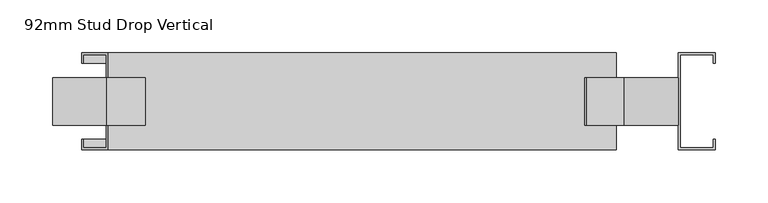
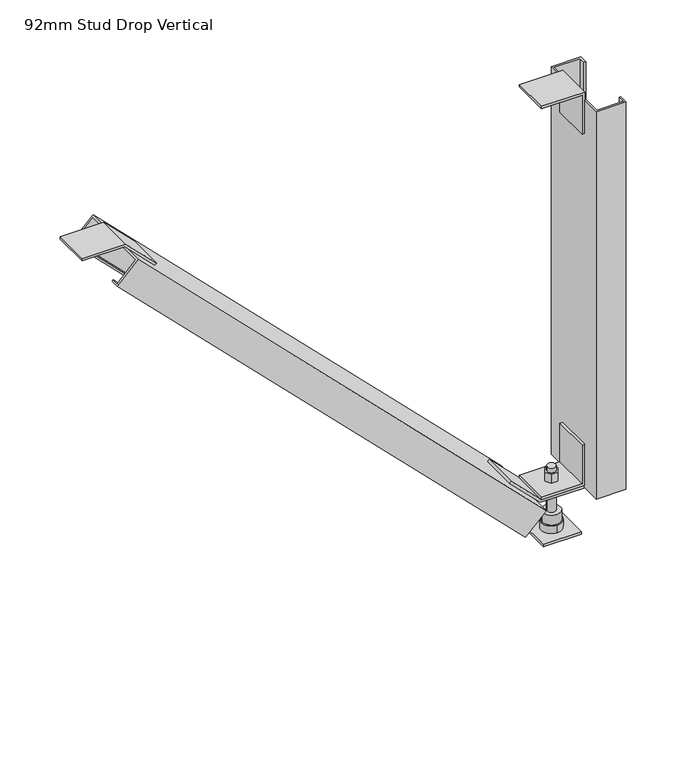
"""IFC4 building model written with IfcOpenShell, lengths in millimetres: beam geometry, Vertibrace Standard Brace : 92mm Stud Drop Vertical."""

from ifc_helpers import new_model, si_unit, frame, origin, origin_with_axes, place, context, project, spatial, polyline, circle_curve, outline, extrude, faceted_brep, source, transform, mapped, element, save
from ifc_brep_helpers import plane_surface, cylinder_surface, advanced_brep


def beam_92mm_stud_drop_vertical_5b7d6dc8(model_context):
    return source(origin(), model_context, "Body", "SolidModel", [
        extrude(outline(polyline([(547.0013294, 23.235654), (498.7734408, 23.235654), (498.7734408, 26.2343246), (550.0, 26.2343246), (550.0, -24.9922346), (547.0013294, -24.9922346), (547.0013294, 23.235654)])), frame((0.0, -22.5, 0.0), z_axis=(0.0, 1.0, 0.0), x_axis=(0.0, 0.0, 1.0)), (0.0, 0.0, 1.0), 45.0),
        extrude(outline(polyline([(547.0013294, -516.535654), (511.6569723, -481.1912969), (513.7773526, -479.0709166), (550.0, -515.293564), (550.0, -566.5201232), (547.0013294, -566.5201232), (547.0013294, -516.535654)])), frame((0.0, -22.5, 0.0), z_axis=(0.0, 1.0, 0.0), x_axis=(0.0, 0.0, 1.0)), (0.0, 0.0, 1.0), 45.0),
        extrude(outline(polyline([(62.6986706, 23.235654), (62.6986706, -24.9922346), (59.7, -24.9922346), (59.7, 26.2343246), (110.9265592, 26.2343246), (110.9265592, 23.235654), (62.6986706, 23.235654)])), frame((0.0, -22.5, 0.0), z_axis=(0.0, 1.0, 0.0), x_axis=(0.0, 0.0, 1.0)), (0.0, 0.0, 1.0), 45.0),
        extrude(outline(polyline([(59.6986706, -24.9922346), (95.0430277, -60.3365917), (92.9226474, -62.456972), (56.7, -26.2343246), (56.7, 24.9922346), (59.6986706, 24.9922346), (59.6986706, -24.9922346)])), frame((0.0, -22.5, 0.0), z_axis=(0.0, 1.0, 0.0), x_axis=(0.0, 0.0, 1.0)), (0.0, 0.0, 1.0), 45.0),
        extrude(outline(polyline([(22.5, 22.5), (22.5, -22.5), (-22.5, -22.5), (-22.5, 22.5), (22.5, 22.5)])), origin_with_axes(), (0.0, 0.0, 1.0), 3.0),
        advanced_brep(
        [(-5.0, 0.0, -10.0), (5.0, 0.0, -10.0), (-5.0, 0.0, 80.0), (5.0, 0.0, 80.0), (5.0, 0.0, 3.0), (-5.0, 0.0, 3.0), (-5.0, 0.0, 74.4), (5.0, 0.0, 74.4), (-5.0, 0.0, 25.0), (5.0, 0.0, 25.0), (5.0, 0.0, 50.0), (-5.0, 0.0, 50.0), (5.0, 0.0, 62.7), (-5.0, 0.0, 62.7), (-5.0, 0.0, 56.7), (5.0, 0.0, 56.7), (-10.5, 0.0, 25.0), (10.5, 0.0, 25.0), (-10.5, 0.0, 13.0), (10.5, 0.0, 13.0), (0.0, -12.0, 13.0), (0.0, 12.0, 13.0), (3.75, 6.4951905, 74.4), (-3.75, 6.4951905, 74.4), (-7.5, 0.0, 74.4), (-3.75, -6.4951905, 74.4), (3.75, -6.4951905, 74.4), (7.5, 0.0, 74.4), (3.75, 6.4951905, 62.7), (7.5, 0.0, 62.7), (3.75, -6.4951905, 62.7), (-3.75, -6.4951905, 62.7), (-7.5, 0.0, 62.7), (-3.75, 6.4951905, 62.7), (-10.9696551, 0.0, 56.7), (-5.4848276, -9.5, 56.7), (5.4848276, -9.5, 56.7), (10.9696551, 0.0, 56.7), (5.4848276, 9.5, 56.7), (-5.4848276, 9.5, 56.7), (-10.9696551, 0.0, 50.0), (-5.4848276, 9.5, 50.0), (5.4848276, 9.5, 50.0), (10.9696551, 0.0, 50.0), (5.4848276, -9.5, 50.0), (-5.4848276, -9.5, 50.0), (0.0, -12.0, 3.0), (0.0, 12.0, 3.0)],
        [
            (0, 1, circle_curve(frame((0.0, 0.0, -10.0), z_axis=(0.0, 0.0, -1.0), x_axis=(1.0, 0.0, 0.0)), 5.0)),
            (1, 0, circle_curve(frame((0.0, 0.0, -10.0), z_axis=(0.0, 0.0, -1.0), x_axis=(1.0, 0.0, 0.0)), 5.0)),
            (2, 3, circle_curve(frame((0.0, 0.0, 80.0), z_axis=(0.0, 0.0, 1.0), x_axis=(1.0, 0.0, 0.0)), 5.0)),
            (3, 2, circle_curve(frame((0.0, 0.0, 80.0), z_axis=(0.0, 0.0, 1.0), x_axis=(1.0, 0.0, 0.0)), 5.0)),
            (1, 4),
            (4, 5, circle_curve(frame((0.0, 0.0, 3.0), z_axis=(0.0, 0.0, -1.0), x_axis=(1.0, 0.0, 0.0)), 5.0)),
            (5, 0),
            (2, 6),
            (6, 7, circle_curve(frame((0.0, 0.0, 74.4), z_axis=(0.0, 0.0, 1.0), x_axis=(1.0, 0.0, 0.0)), 5.0)),
            (7, 3),
            (8, 9, circle_curve(frame((0.0, 0.0, 25.0), z_axis=(0.0, 0.0, 1.0), x_axis=(1.0, 0.0, 0.0)), 5.0)),
            (9, 10),
            (10, 11, circle_curve(frame((0.0, 0.0, 50.0), z_axis=(0.0, 0.0, -1.0), x_axis=(1.0, 0.0, 0.0)), 5.0)),
            (11, 8),
            (12, 13, circle_curve(frame((0.0, 0.0, 62.7), z_axis=(0.0, 0.0, -1.0), x_axis=(1.0, 0.0, 0.0)), 5.0)),
            (13, 14),
            (14, 15, circle_curve(frame((0.0, 0.0, 56.7), z_axis=(0.0, 0.0, 1.0), x_axis=(1.0, 0.0, 0.0)), 5.0)),
            (15, 12),
            (5, 4, circle_curve(frame((0.0, 0.0, 3.0), z_axis=(0.0, 0.0, -1.0), x_axis=(1.0, 0.0, 0.0)), 5.0)),
            (7, 6, circle_curve(frame((0.0, 0.0, 74.4), z_axis=(0.0, 0.0, 1.0), x_axis=(1.0, 0.0, 0.0)), 5.0)),
            (9, 8, circle_curve(frame((0.0, 0.0, 25.0), z_axis=(0.0, 0.0, 1.0), x_axis=(1.0, 0.0, 0.0)), 5.0)),
            (11, 10, circle_curve(frame((0.0, 0.0, 50.0), z_axis=(0.0, 0.0, -1.0), x_axis=(1.0, 0.0, 0.0)), 5.0)),
            (13, 12, circle_curve(frame((0.0, 0.0, 62.7), z_axis=(0.0, 0.0, -1.0), x_axis=(1.0, 0.0, 0.0)), 5.0)),
            (15, 14, circle_curve(frame((0.0, 0.0, 56.7), z_axis=(0.0, 0.0, 1.0), x_axis=(1.0, 0.0, 0.0)), 5.0)),
            (16, 17, circle_curve(frame((0.0, 0.0, 25.0), z_axis=(0.0, 0.0, 1.0), x_axis=(1.0, 0.0, 0.0)), 10.5)),
            (17, 16, circle_curve(frame((0.0, 0.0, 25.0), z_axis=(0.0, 0.0, 1.0), x_axis=(1.0, 0.0, 0.0)), 10.5)),
            (16, 18),
            (18, 19, circle_curve(frame((0.0, 0.0, 13.0), z_axis=(0.0, 0.0, 1.0), x_axis=(1.0, 0.0, 0.0)), 10.5)),
            (19, 17),
            (19, 18, circle_curve(frame((0.0, 0.0, 13.0), z_axis=(0.0, 0.0, 1.0), x_axis=(1.0, 0.0, 0.0)), 10.5)),
            (20, 21, circle_curve(frame((0.0, 0.0, 13.0), z_axis=(0.0, 0.0, 1.0), x_axis=(0.0, 1.0, 0.0)), 12.0)),
            (21, 20, circle_curve(frame((0.0, 0.0, 13.0), z_axis=(0.0, 0.0, 1.0), x_axis=(0.0, 1.0, 0.0)), 12.0)),
            (22, 23),
            (23, 24),
            (24, 25),
            (25, 26),
            (26, 27),
            (27, 22),
            (28, 29),
            (29, 30),
            (30, 31),
            (31, 32),
            (32, 33),
            (33, 28),
            (22, 28),
            (33, 23),
            (32, 24),
            (31, 25),
            (30, 26),
            (29, 27),
            (34, 35),
            (35, 36),
            (36, 37),
            (37, 38),
            (38, 39),
            (39, 34),
            (40, 41),
            (41, 42),
            (42, 43),
            (43, 44),
            (44, 45),
            (45, 40),
            (34, 40),
            (45, 35),
            (44, 36),
            (43, 37),
            (42, 38),
            (41, 39),
            (46, 47, circle_curve(frame((0.0, 0.0, 3.0), z_axis=(0.0, 0.0, -1.0), x_axis=(0.0, 1.0, 0.0)), 12.0)),
            (47, 46, circle_curve(frame((0.0, 0.0, 3.0), z_axis=(0.0, 0.0, -1.0), x_axis=(0.0, 1.0, 0.0)), 12.0)),
            (47, 21),
            (20, 46),
        ],
        [
            plane_surface(frame((5.0, 0.0, -10.0), z_axis=(0.0, 0.0, -1.0), x_axis=(0.0, -1.0, 0.0))),
            plane_surface(frame((5.0, 0.0, 80.0), z_axis=(0.0, 0.0, 1.0), x_axis=(0.0, 1.0, 0.0))),
            cylinder_surface(frame((0.0, 0.0, -10.0), z_axis=(0.0, 0.0, 1.0), x_axis=(1.0, 0.0, 0.0)), 5.0),
            plane_surface(frame((10.5, 0.0, 25.0), z_axis=(0.0, 0.0, 1.0), x_axis=(0.0, 1.0, 0.0))),
            cylinder_surface(frame((0.0, 0.0, 13.0), z_axis=(0.0, 0.0, 1.0), x_axis=(1.0, 0.0, 0.0)), 10.5),
            plane_surface(frame((0.0, 12.0, 13.0), z_axis=(0.0, 0.0, 1.0), x_axis=(-1.0, 0.0, 0.0))),
            plane_surface(frame((3.75, 6.4951905, 74.4), z_axis=(0.0, 0.0, 1.0), x_axis=(-1.0, 0.0, 0.0))),
            plane_surface(frame((3.75, 6.4951905, 62.7), z_axis=(0.0, 0.0, -1.0), x_axis=(1.0, 0.0, 0.0))),
            plane_surface(frame((3.75, 6.4951905, 74.4), z_axis=(0.0, 1.0, 0.0), x_axis=(0.0, 0.0, -1.0))),
            plane_surface(frame((-3.75, 6.4951905, 74.4), z_axis=(-0.866025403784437, 0.5000000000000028, 0.0), x_axis=(0.0, 0.0, -1.0))),
            plane_surface(frame((-7.5, 0.0, 74.4), z_axis=(-0.8660254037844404, -0.4999999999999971, 0.0), x_axis=(0.0, 0.0, -1.0))),
            plane_surface(frame((-3.75, -6.4951905, 74.4), z_axis=(0.0, -1.0, 0.0), x_axis=(0.0, 0.0, -1.0))),
            plane_surface(frame((3.75, -6.4951905, 74.4), z_axis=(0.8660254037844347, -0.500000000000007, 0.0), x_axis=(0.0, 0.0, -1.0))),
            plane_surface(frame((7.5, 0.0, 74.4), z_axis=(0.8660254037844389, 0.49999999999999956, 0.0), x_axis=(0.0, 0.0, -1.0))),
            plane_surface(frame((-10.9696551, 0.0, 56.7), z_axis=(0.0, 0.0, 1.0), x_axis=(0.49999999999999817, -0.8660254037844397, 0.0))),
            plane_surface(frame((-10.9696551, 0.0, 50.0), z_axis=(0.0, 0.0, -1.0), x_axis=(-0.49999999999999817, 0.8660254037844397, 0.0))),
            plane_surface(frame((-10.9696551, 0.0, 56.7), z_axis=(-0.8660254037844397, -0.49999999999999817, 0.0), x_axis=(0.0, 0.0, -1.0))),
            plane_surface(frame((-5.4848276, -9.5, 56.7), z_axis=(0.0, -1.0, 0.0), x_axis=(0.0, 0.0, -1.0))),
            plane_surface(frame((5.4848276, -9.5, 56.7), z_axis=(0.8660254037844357, -0.5000000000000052, 0.0), x_axis=(0.0, 0.0, -1.0))),
            plane_surface(frame((10.9696551, 0.0, 56.7), z_axis=(0.8660254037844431, 0.49999999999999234, 0.0), x_axis=(0.0, 0.0, -1.0))),
            plane_surface(frame((5.4848276, 9.5, 56.7), z_axis=(0.0, 1.0, 0.0), x_axis=(0.0, 0.0, -1.0))),
            plane_surface(frame((-5.4848276, 9.5, 56.7), z_axis=(-0.866025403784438, 0.5000000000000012, 0.0), x_axis=(0.0, 0.0, -1.0))),
            plane_surface(frame((0.0, 12.0, 3.0), z_axis=(0.0, 0.0, -1.0), x_axis=(1.0, 0.0, 0.0))),
            cylinder_surface(frame((0.0, 0.0, 3.0), z_axis=(0.0, 0.0, 1.0), x_axis=(0.0, 1.0, 0.0)), 12.0),
        ],
        [
            (0, [[1, 2]]),
            (1, [[3, 4]]),
            (2, [[-2, 5, 6, 7]]),
            (2, [[-3, 8, 9, 10]]),
            (2, [[11, 12, 13, 14]]),
            (2, [[15, 16, 17, 18]]),
            (2, [[-1, -7, 19, -5]]),
            (2, [[-4, -10, 20, -8]]),
            (2, [[21, -14, 22, -12]]),
            (2, [[23, -18, 24, -16]]),
            (3, [[25, 26], [-11, -21]]),
            (4, [[-25, 27, 28, 29]]),
            (4, [[-26, -29, 30, -27]]),
            (5, [[31, 32], [-28, -30]]),
            (6, [[33, 34, 35, 36, 37, 38], [-9, -20]]),
            (7, [[39, 40, 41, 42, 43, 44], [-15, -23]]),
            (8, [[-33, 45, -44, 46]]),
            (9, [[-34, -46, -43, 47]]),
            (10, [[-35, -47, -42, 48]]),
            (11, [[-36, -48, -41, 49]]),
            (12, [[-37, -49, -40, 50]]),
            (13, [[-38, -50, -39, -45]]),
            (14, [[51, 52, 53, 54, 55, 56], [-17, -24]]),
            (15, [[57, 58, 59, 60, 61, 62], [-13, -22]]),
            (16, [[-51, 63, -62, 64]]),
            (17, [[-52, -64, -61, 65]]),
            (18, [[-53, -65, -60, 66]]),
            (19, [[-54, -66, -59, 67]]),
            (20, [[-55, -67, -58, 68]]),
            (21, [[-56, -68, -57, -63]]),
            (22, [[69, 70], [-6, -19]]),
            (23, [[-70, 71, -31, 72]]),
            (23, [[-69, -72, -32, -71]]),
        ],
    ),
        extrude(outline(polyline([(26.2343246, 46.0), (61.2343246, 46.0), (61.2343246, 36.0), (59.2343246, 36.0), (59.2343246, 44.0), (28.2343246, 44.0), (28.2343246, -44.0), (59.2343246, -44.0), (59.2343246, -36.0), (61.2343246, -36.0), (61.2343246, -46.0), (26.2343246, -46.0), (26.2343246, 46.0)])), frame((0.0, 0.0, 56.7), z_axis=(0.0, 0.0, 1.0), x_axis=(1.0, 0.0, 0.0)), (0.0, 0.0, 1.0), 483.3),
        faceted_brep([(-32.5343246, -46.0, 63.0), (-57.283062, -46.0, 38.2512627), (-57.283062, -45.0, 38.2512627), (-43.5343246, -45.0, 52.0), (-43.5343246, -44.0, 52.0), (-33.9485382, -44.0, 61.5857864), (-33.9485382, 44.0, 61.5857864), (-43.5343246, 44.0, 52.0), (-43.5343246, 46.0, 52.0), (-32.5343246, 46.0, 63.0), (-514.4883773, -46.0, 544.9540527), (-514.4883773, 46.0, 544.9540527), (-539.2371147, 46.0, 520.2053154), (-539.2371147, 36.0, 520.2053154), (-537.8229011, 36.0, 521.6195289), (-537.8229011, 44.0, 521.6195289), (-515.9025909, 44.0, 543.5398392), (-515.9025909, -44.0, 543.5398392), (-537.8229011, -44.0, 521.6195289), (-537.8229011, -36.0, 521.6195289), (-539.2371147, -36.0, 520.2053154), (-539.2371147, -46.0, 520.2053154), (-71.0317993, -36.0, 52.0), (-71.0317993, -45.0, 52.0), (-71.0317993, 46.0, 52.0), (-68.2033722, 44.0, 52.0), (-68.2033722, 36.0, 52.0), (-71.0317993, 36.0, 52.0), (-68.2033722, -36.0, 52.0), (-68.2033722, -44.0, 52.0)], [[[0, 1, 2, 3, 4, 5, 6, 7, 8, 9]], [[10, 11, 12, 13, 14, 15, 16, 17, 18, 19, 20, 21]], [[1, 0, 10, 21]], [[21, 20, 22, 23, 2, 1]], [[12, 11, 9, 8, 24]], [[0, 9, 11, 10]], [[8, 7, 25, 26, 27, 24]], [[3, 23, 22, 28, 29, 4]], [[20, 19, 28, 22]], [[19, 18, 29, 28]], [[18, 17, 5, 4, 29]], [[6, 5, 17, 16]], [[16, 15, 25, 7, 6]], [[15, 14, 26, 25]], [[14, 13, 27, 26]], [[13, 12, 24, 27]], [[23, 3, 2]]]),
    ])


if __name__ == "__main__":
    model = new_model("IFC4")
    model_context = context("Model", 3, world=origin())
    ifc_project = project(units=[si_unit("LENGTHUNIT", "METRE", prefix="MILLI")], contexts=[model_context])
    site = spatial("IfcSite", under=ifc_project)
    building = spatial("IfcBuilding", under=site)
    placement = place(None, origin())
    beam_92mm_stud_drop_vertical_shape = beam_92mm_stud_drop_vertical_5b7d6dc8(model_context)
    element("IfcBeam", 1, ObjectType="Vertibrace Standard Brace : 92mm Stud Drop Vertical", at=placement, inside=building, context=model_context, shape_type="MappedRepresentation", body=[
        mapped(beam_92mm_stud_drop_vertical_shape, transform((0.0, 0.0, 0.0), x_axis=(1.0, 0.0, 0.0), y_axis=(0.0, 1.0, 0.0), z_axis=(0.0, 0.0, 1.0))),
    ])
    save(model, "model.ifc")
